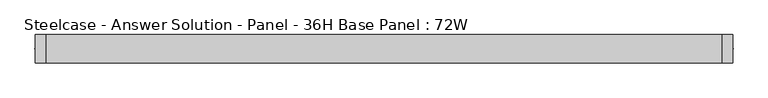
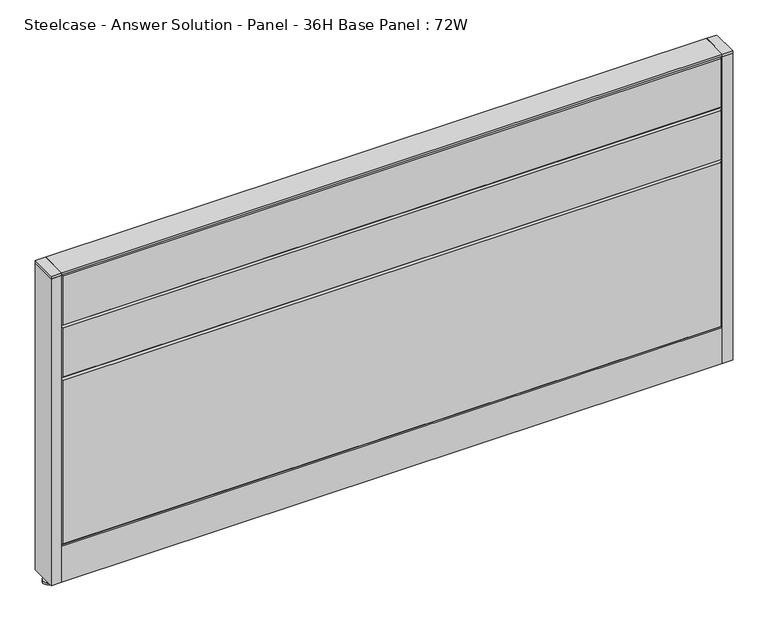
"""IFC4 building model written with IfcOpenShell, lengths in millimetres: furniture geometry, Steelcase - Answer Solution - Panel - 36H Base Panel : 72W."""

from ifc_helpers import new_model, si_unit, point, frame, frame_2d, origin, place, context, project, spatial, polyline, circle_curve, trimmed, segment, composite_curve, outline, extrude, faceted_brep, source, transform, mapped, element, save


def steelcase_answer_solution_panel_36h_base_panel_72w_b7e272d5(model_context):
    return source(origin(), model_context, "Body", "SolidModel", [
        extrude(outline(composite_curve([segment(trimmed(circle_curve(frame_2d((928.624, 0.0320214)), 5.08), [point((933.704, 0.0320214))], [point((923.544, 0.0320214))], False, "CARTESIAN"), True, "CONTINUOUS"), segment(trimmed(circle_curve(frame_2d((928.624, 0.0320214)), 5.08), [point((923.544, 0.0320214))], [point((933.704, 0.0320214))], False, "CARTESIAN"), True, "CONTINUOUS")], self_intersect=False)), frame((0.0, 0.0, 5.0799671), z_axis=(0.0, 0.0, 1.0), x_axis=(1.0, 0.0, 0.0)), (0.0, 0.0, 1.0), 10.414),
        extrude(outline(composite_curve([segment(trimmed(circle_curve(frame_2d((928.624, 0.0320214)), 15.24), [point((943.864, 0.0320214))], [point((913.384, 0.0320214))], False, "CARTESIAN"), True, "CONTINUOUS"), segment(trimmed(circle_curve(frame_2d((928.624, 0.0320214)), 15.24), [point((913.384, 0.0320214))], [point((943.864, 0.0320214))], False, "CARTESIAN"), True, "CONTINUOUS")], self_intersect=False)), frame((0.0, 0.0, -3.29e-05), z_axis=(0.0, 0.0, 1.0), x_axis=(1.0, 0.0, 0.0)), (0.0, 0.0, 1.0), 5.08),
        extrude(outline(polyline([(942.975, 38.1320408), (942.975, -38.0679592), (914.4, -38.0679592), (914.4, 38.1320408), (942.975, 38.1320408)])), frame((0.0, 0.0, 913.4348), z_axis=(0.0, 0.0, 1.0), x_axis=(1.0, 0.0, 0.0)), (0.0, 0.0, 1.0), 7.3151671),
        extrude(outline(polyline([(942.975, 38.1320408), (942.975, -38.0679592), (914.4, -38.0679592), (914.4, 38.1320408), (942.975, 38.1320408)])), frame((0.0, 0.0, 15.4939671), z_axis=(0.0, 0.0, 1.0), x_axis=(1.0, 0.0, 0.0)), (0.0, 0.0, 1.0), 897.9408329),
        extrude(outline(composite_curve([segment(trimmed(circle_curve(frame_2d((-928.624, -0.0320214)), 5.08), [point((-933.704, -0.0320214))], [point((-923.544, -0.0320214))], False, "CARTESIAN"), True, "CONTINUOUS"), segment(trimmed(circle_curve(frame_2d((-928.624, -0.0320214)), 5.08), [point((-923.544, -0.0320214))], [point((-933.704, -0.0320214))], False, "CARTESIAN"), True, "CONTINUOUS")], self_intersect=False)), frame((0.0, 0.0, 5.0799671), z_axis=(0.0, 0.0, 1.0), x_axis=(1.0, 0.0, 0.0)), (0.0, 0.0, 1.0), 10.414),
        extrude(outline(composite_curve([segment(trimmed(circle_curve(frame_2d((-928.624, -0.0320214)), 15.24), [point((-943.864, -0.0320214))], [point((-913.384, -0.0320214))], False, "CARTESIAN"), True, "CONTINUOUS"), segment(trimmed(circle_curve(frame_2d((-928.624, -0.0320214)), 15.24), [point((-913.384, -0.0320214))], [point((-943.864, -0.0320214))], False, "CARTESIAN"), True, "CONTINUOUS")], self_intersect=False)), frame((0.0, 0.0, -3.29e-05), z_axis=(0.0, 0.0, 1.0), x_axis=(1.0, 0.0, 0.0)), (0.0, 0.0, 1.0), 5.08),
        extrude(outline(polyline([(-942.975, -38.1320408), (-942.975, 38.0679592), (-914.4, 38.0679592), (-914.4, -38.1320408), (-942.975, -38.1320408)])), frame((0.0, 0.0, 913.4348), z_axis=(0.0, 0.0, 1.0), x_axis=(1.0, 0.0, 0.0)), (0.0, 0.0, 1.0), 7.3151671),
        extrude(outline(polyline([(-942.975, -38.1320408), (-942.975, 38.0679592), (-914.4, 38.0679592), (-914.4, -38.1320408), (-942.975, -38.1320408)])), frame((0.0, 0.0, 15.4939671), z_axis=(0.0, 0.0, 1.0), x_axis=(1.0, 0.0, 0.0)), (0.0, 0.0, 1.0), 897.9408329),
        faceted_brep([(909.574, 38.1635011, 909.574), (909.574, 38.1635011, 766.826), (-909.574, 38.1635011, 766.826), (-909.574, 38.1635011, 909.574), (914.4, 33.3375011, 914.4), (-914.4, 33.3375011, 914.4), (-914.4, 33.3375011, 762.0), (914.4, 33.3375011, 762.0)], [[[0, 1, 2, 3]], [[4, 5, 6, 7]], [[4, 0, 3, 5]], [[5, 3, 2, 6]], [[6, 2, 1, 7]], [[7, 1, 0, 4]]]),
        faceted_brep([(909.574, 38.1635011, 757.174), (909.574, 38.1635011, 125.476), (-909.574, 38.1635011, 125.476), (-909.574, 38.1635011, 757.174), (914.4, 33.3375011, 762.0), (-914.4, 33.3375011, 762.0), (-914.4, 33.3375011, 120.65), (914.4, 33.3375011, 120.65)], [[[0, 1, 2, 3]], [[4, 5, 6, 7]], [[4, 0, 3, 5]], [[5, 3, 2, 6]], [[6, 2, 1, 7]], [[7, 1, 0, 4]]]),
        faceted_brep([(909.574, -38.1635011, 909.574), (-909.574, -38.1635011, 909.574), (-909.574, -38.1635011, 766.826), (909.574, -38.1635011, 766.826), (914.4, -33.3375011, 914.4), (914.4, -33.3375011, 762.0), (-914.4, -33.3375011, 762.0), (-914.4, -33.3375011, 914.4)], [[[0, 1, 2, 3]], [[4, 5, 6, 7]], [[4, 7, 1, 0]], [[7, 6, 2, 1]], [[6, 5, 3, 2]], [[5, 4, 0, 3]]]),
        faceted_brep([(909.574, -38.1635011, 757.174), (-909.574, -38.1635011, 757.174), (-909.574, -38.1635011, 614.426), (909.574, -38.1635011, 614.426), (914.4, -33.3375011, 762.0), (914.4, -33.3375011, 609.6), (-914.4, -33.3375011, 609.6), (-914.4, -33.3375011, 762.0)], [[[0, 1, 2, 3]], [[4, 5, 6, 7]], [[4, 7, 1, 0]], [[7, 6, 2, 1]], [[6, 5, 3, 2]], [[5, 4, 0, 3]]]),
        faceted_brep([(909.574, -38.1635011, 604.774), (-909.574, -38.1635011, 604.774), (-909.574, -38.1635011, 125.476), (909.574, -38.1635011, 125.476), (914.4, -33.3375011, 609.6), (914.4, -33.3375011, 120.65), (-914.4, -33.3375011, 120.65), (-914.4, -33.3375011, 609.6)], [[[0, 1, 2, 3]], [[4, 5, 6, 7]], [[4, 7, 1, 0]], [[7, 6, 2, 1]], [[6, 5, 3, 2]], [[5, 4, 0, 3]]]),
        extrude(outline(polyline([(914.4, 38.1000194), (914.4, -38.1000194), (-914.4, -38.1000194), (-914.4, 38.1000194), (914.4, 38.1000194)])), frame((0.0, 0.0, 914.4), z_axis=(0.0, 0.0, 1.0), x_axis=(1.0, 0.0, 0.0)), (0.0, 0.0, 1.0), 6.35),
        extrude(outline(polyline([(37.3075215, 119.8575157), (25.4000011, 119.8575157), (25.4000011, 120.65), (38.1000194, 120.65), (38.1000194, 15.494), (37.3075215, 15.494), (37.3075215, 119.8575157)])), frame((-914.4, 0.0, 0.0), z_axis=(1.0, 0.0, 0.0), x_axis=(0.0, 1.0, 0.0)), (0.0, 0.0, 1.0), 1828.8),
        extrude(outline(polyline([(-37.3075215, 119.8575157), (-37.3075215, 15.494), (-38.1000194, 15.494), (-38.1000194, 120.65), (-25.4000011, 120.65), (-25.4000011, 119.8575157), (-37.3075215, 119.8575157)])), frame((-914.4, 0.0, 0.0), z_axis=(1.0, 0.0, 0.0), x_axis=(0.0, 1.0, 0.0)), (0.0, 0.0, 1.0), 1828.8),
    ])


if __name__ == "__main__":
    model = new_model("IFC4")
    model_context = context("Model", 3, world=origin())
    ifc_project = project(units=[si_unit("LENGTHUNIT", "METRE", prefix="MILLI")], contexts=[model_context])
    site = spatial("IfcSite", under=ifc_project)
    building = spatial("IfcBuilding", under=site)
    placement = place(None, origin())
    steelcase_answer_solution_panel_36h_base_panel_72w_shape = steelcase_answer_solution_panel_36h_base_panel_72w_b7e272d5(model_context)
    element("IfcFurniture", 1, ObjectType="Steelcase - Answer Solution - Panel - 36H Base Panel : 72W", at=placement, inside=building, context=model_context, shape_type="MappedRepresentation", body=[
        mapped(steelcase_answer_solution_panel_36h_base_panel_72w_shape, transform((0.0, 0.0, 0.0), x_axis=(1.0, 0.0, 0.0), y_axis=(0.0, 1.0, 0.0), z_axis=(0.0, 0.0, 1.0))),
    ])
    save(model, "model.ifc")
